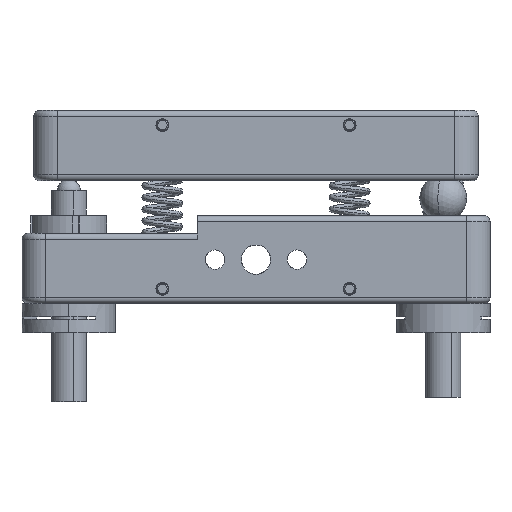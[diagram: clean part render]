
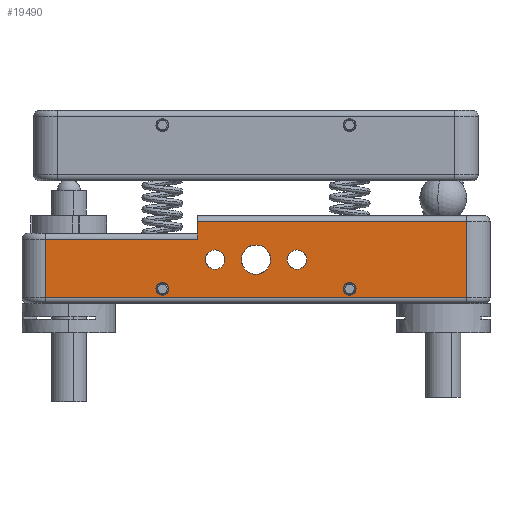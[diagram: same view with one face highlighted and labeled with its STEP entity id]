
A CAD part, left-side view. The second image highlights one B-rep face of the part: STEP entity #19490.
In plain terms, the highlighted planar face has unit normal (-1, 0, 0).
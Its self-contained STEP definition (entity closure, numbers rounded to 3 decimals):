
#82 = CIRCLE ( 'NONE', #8219, 2.5 ) ;
#139 = DIRECTION ( 'NONE',  ( 0., 0., 1. ) ) ;
#284 = EDGE_LOOP ( 'NONE', ( #11391, #14672 ) ) ;
#541 = ORIENTED_EDGE ( 'NONE', *, *, #17189, .F. ) ;
#957 = ORIENTED_EDGE ( 'NONE', *, *, #6097, .T. ) ;
#1089 = LINE ( 'NONE', #18797, #2244 ) ;
#1151 = VECTOR ( 'NONE', #22431, 1000. ) ;
#1685 = EDGE_LOOP ( 'NONE', ( #11017, #8334 ) ) ;
#1732 = LINE ( 'NONE', #9678, #1151 ) ;
#1753 = CIRCLE ( 'NONE', #14742, 1.1 ) ;
#2192 = CARTESIAN_POINT ( 'NONE',  ( -41.266, -15.655, 2.5 ) ) ;
#2244 = VECTOR ( 'NONE', #8001, 1000. ) ;
#2388 = VERTEX_POINT ( 'NONE', #2796 ) ;
#2466 = CARTESIAN_POINT ( 'NONE',  ( -41.266, 16.345, 2.5 ) ) ;
#2796 = CARTESIAN_POINT ( 'NONE',  ( -41.266, 36.345, 1. ) ) ;
#2961 = EDGE_CURVE ( 'NONE', #11280, #21106, #5665, .T. ) ;
#3264 = CIRCLE ( 'NONE', #4880, 1.65 ) ;
#3440 = CARTESIAN_POINT ( 'NONE',  ( -41.266, 10.345, 14. ) ) ;
#3772 = ORIENTED_EDGE ( 'NONE', *, *, #22020, .T. ) ;
#3808 = FACE_OUTER_BOUND ( 'NONE', #12293, .T. ) ;
#3818 = AXIS2_PLACEMENT_3D ( 'NONE', #17093, #6227, #18931 ) ;
#3885 = CARTESIAN_POINT ( 'NONE',  ( -41.266, 10.345, 11. ) ) ;
#3901 = CARTESIAN_POINT ( 'NONE',  ( -41.266, 7.345, 7.5 ) ) ;
#3990 = DIRECTION ( 'NONE',  ( 0., 0., 1. ) ) ;
#4025 = ORIENTED_EDGE ( 'NONE', *, *, #21539, .F. ) ;
#4254 = DIRECTION ( 'NONE',  ( 0., 0., 1. ) ) ;
#4377 = FACE_BOUND ( 'NONE', #1685, .T. ) ;
#4388 = DIRECTION ( 'NONE',  ( 1., 0., 0. ) ) ;
#4537 = CARTESIAN_POINT ( 'NONE',  ( -41.266, -15.655, 2.5 ) ) ;
#4598 = ORIENTED_EDGE ( 'NONE', *, *, #11186, .F. ) ;
#4798 = DIRECTION ( 'NONE',  ( -1., 0., 0. ) ) ;
#4880 = AXIS2_PLACEMENT_3D ( 'NONE', #9062, #21818, #10860 ) ;
#5332 = DIRECTION ( 'NONE',  ( 0., -1., 0. ) ) ;
#5665 = LINE ( 'NONE', #10556, #19584 ) ;
#5694 = EDGE_CURVE ( 'NONE', #10245, #19088, #22134, .T. ) ;
#5706 = DIRECTION ( 'NONE',  ( 0., 0., 1. ) ) ;
#6048 = AXIS2_PLACEMENT_3D ( 'NONE', #18586, #7701, #20437 ) ;
#6097 = EDGE_CURVE ( 'NONE', #21106, #2388, #1089, .T. ) ;
#6227 = DIRECTION ( 'NONE',  ( -1., 0., 0. ) ) ;
#6342 = DIRECTION ( 'NONE',  ( 0., 0., 1. ) ) ;
#6415 = LINE ( 'NONE', #12799, #11200 ) ;
#6644 = EDGE_CURVE ( 'NONE', #23067, #22388, #15261, .T. ) ;
#6699 = CIRCLE ( 'NONE', #13234, 1.1 ) ;
#6864 = AXIS2_PLACEMENT_3D ( 'NONE', #15248, #4388, #17060 ) ;
#6944 = CARTESIAN_POINT ( 'NONE',  ( -41.266, 10.345, 14. ) ) ;
#7119 = CARTESIAN_POINT ( 'NONE',  ( -41.266, 0.345, 7.5 ) ) ;
#7561 = CARTESIAN_POINT ( 'NONE',  ( -41.266, -6.655, 7.5 ) ) ;
#7701 = DIRECTION ( 'NONE',  ( -1., 0., 0. ) ) ;
#8001 = DIRECTION ( 'NONE',  ( 0., 0., -1. ) ) ;
#8067 = CARTESIAN_POINT ( 'NONE',  ( -41.266, 0.345, 5. ) ) ;
#8098 = CARTESIAN_POINT ( 'NONE',  ( -41.266, -6.655, 5.85 ) ) ;
#8161 = EDGE_LOOP ( 'NONE', ( #541, #11308 ) ) ;
#8219 = AXIS2_PLACEMENT_3D ( 'NONE', #7119, #19841, #8956 ) ;
#8334 = ORIENTED_EDGE ( 'NONE', *, *, #6644, .F. ) ;
#8612 = FACE_BOUND ( 'NONE', #10242, .T. ) ;
#8956 = DIRECTION ( 'NONE',  ( 0., 0., 1. ) ) ;
#9062 = CARTESIAN_POINT ( 'NONE',  ( -41.266, 7.345, 7.5 ) ) ;
#9174 = EDGE_CURVE ( 'NONE', #19000, #20963, #1753, .T. ) ;
#9189 = FACE_BOUND ( 'NONE', #8161, .T. ) ;
#9395 = DIRECTION ( 'NONE',  ( 0., 0., 1. ) ) ;
#9411 = CARTESIAN_POINT ( 'NONE',  ( -41.266, 36.345, 11. ) ) ;
#9678 = CARTESIAN_POINT ( 'NONE',  ( -41.266, -35.655, 15. ) ) ;
#10242 = EDGE_LOOP ( 'NONE', ( #4025, #20157 ) ) ;
#10245 = VERTEX_POINT ( 'NONE', #13544 ) ;
#10257 = CARTESIAN_POINT ( 'NONE',  ( -41.266, -6.655, 9.15 ) ) ;
#10481 = DIRECTION ( 'NONE',  ( 0., 1., 0. ) ) ;
#10556 = CARTESIAN_POINT ( 'NONE',  ( -41.266, 36.345, 11. ) ) ;
#10661 = EDGE_CURVE ( 'NONE', #20239, #15401, #6699, .T. ) ;
#10860 = DIRECTION ( 'NONE',  ( 0., 0., 1. ) ) ;
#10938 = CARTESIAN_POINT ( 'NONE',  ( -41.266, -15.655, 1.4 ) ) ;
#11012 = EDGE_CURVE ( 'NONE', #14738, #16249, #14076, .T. ) ;
#11017 = ORIENTED_EDGE ( 'NONE', *, *, #17779, .F. ) ;
#11186 = EDGE_CURVE ( 'NONE', #11280, #16249, #6415, .T. ) ;
#11200 = VECTOR ( 'NONE', #139, 1000. ) ;
#11280 = VERTEX_POINT ( 'NONE', #3885 ) ;
#11308 = ORIENTED_EDGE ( 'NONE', *, *, #9174, .F. ) ;
#11391 = ORIENTED_EDGE ( 'NONE', *, *, #5694, .F. ) ;
#11760 = AXIS2_PLACEMENT_3D ( 'NONE', #15657, #4798, #17476 ) ;
#12225 = CIRCLE ( 'NONE', #19691, 1.1 ) ;
#12259 = VERTEX_POINT ( 'NONE', #21724 ) ;
#12293 = EDGE_LOOP ( 'NONE', ( #957, #3772, #12947, #17265, #4598, #14736 ) ) ;
#12415 = AXIS2_PLACEMENT_3D ( 'NONE', #3901, #16577, #5706 ) ;
#12721 = CARTESIAN_POINT ( 'NONE',  ( -41.266, 16.345, 3.6 ) ) ;
#12799 = CARTESIAN_POINT ( 'NONE',  ( -41.266, 10.345, 12. ) ) ;
#12947 = ORIENTED_EDGE ( 'NONE', *, *, #22253, .T. ) ;
#13033 = CARTESIAN_POINT ( 'NONE',  ( -41.266, -35.655, 14. ) ) ;
#13234 = AXIS2_PLACEMENT_3D ( 'NONE', #2192, #14843, #3990 ) ;
#13424 = EDGE_LOOP ( 'NONE', ( #20491, #21027 ) ) ;
#13435 = FACE_BOUND ( 'NONE', #13424, .T. ) ;
#13544 = CARTESIAN_POINT ( 'NONE',  ( -41.266, 7.345, 9.15 ) ) ;
#14076 = LINE ( 'NONE', #6944, #22676 ) ;
#14335 = DIRECTION ( 'NONE',  ( 0., 1., 0. ) ) ;
#14672 = ORIENTED_EDGE ( 'NONE', *, *, #16854, .F. ) ;
#14736 = ORIENTED_EDGE ( 'NONE', *, *, #2961, .T. ) ;
#14738 = VERTEX_POINT ( 'NONE', #13033 ) ;
#14742 = AXIS2_PLACEMENT_3D ( 'NONE', #2466, #15117, #4254 ) ;
#14843 = DIRECTION ( 'NONE',  ( -1., 0., 0. ) ) ;
#15074 = EDGE_CURVE ( 'NONE', #20602, #21257, #19177, .T. ) ;
#15117 = DIRECTION ( 'NONE',  ( -1., 0., 0. ) ) ;
#15248 = CARTESIAN_POINT ( 'NONE',  ( -41.266, 40.345, 15. ) ) ;
#15261 = CIRCLE ( 'NONE', #3818, 2.5 ) ;
#15401 = VERTEX_POINT ( 'NONE', #10938 ) ;
#15657 = CARTESIAN_POINT ( 'NONE',  ( -41.266, -6.655, 7.5 ) ) ;
#15692 = CARTESIAN_POINT ( 'NONE',  ( -41.266, -15.655, 3.6 ) ) ;
#16197 = CARTESIAN_POINT ( 'NONE',  ( -41.266, 40.345, 1. ) ) ;
#16249 = VERTEX_POINT ( 'NONE', #3440 ) ;
#16577 = DIRECTION ( 'NONE',  ( -1., 0., 0. ) ) ;
#16766 = CIRCLE ( 'NONE', #17184, 1.65 ) ;
#16854 = EDGE_CURVE ( 'NONE', #19088, #10245, #3264, .T. ) ;
#16975 = PLANE ( 'NONE',  #6864 ) ;
#17060 = DIRECTION ( 'NONE',  ( 0., 0., -1. ) ) ;
#17093 = CARTESIAN_POINT ( 'NONE',  ( -41.266, 0.345, 7.5 ) ) ;
#17184 = AXIS2_PLACEMENT_3D ( 'NONE', #7561, #20303, #9395 ) ;
#17189 = EDGE_CURVE ( 'NONE', #20963, #19000, #18549, .T. ) ;
#17206 = DIRECTION ( 'NONE',  ( -1., 0., 0. ) ) ;
#17265 = ORIENTED_EDGE ( 'NONE', *, *, #11012, .T. ) ;
#17476 = DIRECTION ( 'NONE',  ( 0., 0., 1. ) ) ;
#17779 = EDGE_CURVE ( 'NONE', #22388, #23067, #82, .T. ) ;
#17884 = VECTOR ( 'NONE', #5332, 1000. ) ;
#18276 = FACE_BOUND ( 'NONE', #284, .T. ) ;
#18458 = LINE ( 'NONE', #16197, #17884 ) ;
#18549 = CIRCLE ( 'NONE', #6048, 1.1 ) ;
#18586 = CARTESIAN_POINT ( 'NONE',  ( -41.266, 16.345, 2.5 ) ) ;
#18797 = CARTESIAN_POINT ( 'NONE',  ( -41.266, 36.345, 15. ) ) ;
#18931 = DIRECTION ( 'NONE',  ( 0., 0., 1. ) ) ;
#19000 = VERTEX_POINT ( 'NONE', #22232 ) ;
#19088 = VERTEX_POINT ( 'NONE', #22392 ) ;
#19177 = CIRCLE ( 'NONE', #11760, 1.65 ) ;
#19490 = ADVANCED_FACE ( 'NONE', ( #13435, #9189, #4377, #18276, #8612, #3808 ), #16975, .F. ) ;
#19584 = VECTOR ( 'NONE', #10481, 1000. ) ;
#19691 = AXIS2_PLACEMENT_3D ( 'NONE', #4537, #17206, #6342 ) ;
#19841 = DIRECTION ( 'NONE',  ( -1., 0., 0. ) ) ;
#20157 = ORIENTED_EDGE ( 'NONE', *, *, #15074, .F. ) ;
#20239 = VERTEX_POINT ( 'NONE', #15692 ) ;
#20303 = DIRECTION ( 'NONE',  ( -1., 0., 0. ) ) ;
#20437 = DIRECTION ( 'NONE',  ( 0., 0., 1. ) ) ;
#20491 = ORIENTED_EDGE ( 'NONE', *, *, #10661, .F. ) ;
#20602 = VERTEX_POINT ( 'NONE', #8098 ) ;
#20626 = EDGE_CURVE ( 'NONE', #15401, #20239, #12225, .T. ) ;
#20920 = CARTESIAN_POINT ( 'NONE',  ( -41.266, 0.345, 10. ) ) ;
#20963 = VERTEX_POINT ( 'NONE', #12721 ) ;
#21027 = ORIENTED_EDGE ( 'NONE', *, *, #20626, .F. ) ;
#21106 = VERTEX_POINT ( 'NONE', #9411 ) ;
#21257 = VERTEX_POINT ( 'NONE', #10257 ) ;
#21539 = EDGE_CURVE ( 'NONE', #21257, #20602, #16766, .T. ) ;
#21724 = CARTESIAN_POINT ( 'NONE',  ( -41.266, -35.655, 1. ) ) ;
#21818 = DIRECTION ( 'NONE',  ( -1., 0., 0. ) ) ;
#22020 = EDGE_CURVE ( 'NONE', #2388, #12259, #18458, .T. ) ;
#22134 = CIRCLE ( 'NONE', #12415, 1.65 ) ;
#22232 = CARTESIAN_POINT ( 'NONE',  ( -41.266, 16.345, 1.4 ) ) ;
#22253 = EDGE_CURVE ( 'NONE', #12259, #14738, #1732, .T. ) ;
#22388 = VERTEX_POINT ( 'NONE', #20920 ) ;
#22392 = CARTESIAN_POINT ( 'NONE',  ( -41.266, 7.345, 5.85 ) ) ;
#22431 = DIRECTION ( 'NONE',  ( 0., 0., 1. ) ) ;
#22676 = VECTOR ( 'NONE', #14335, 1000. ) ;
#23067 = VERTEX_POINT ( 'NONE', #8067 ) ;
